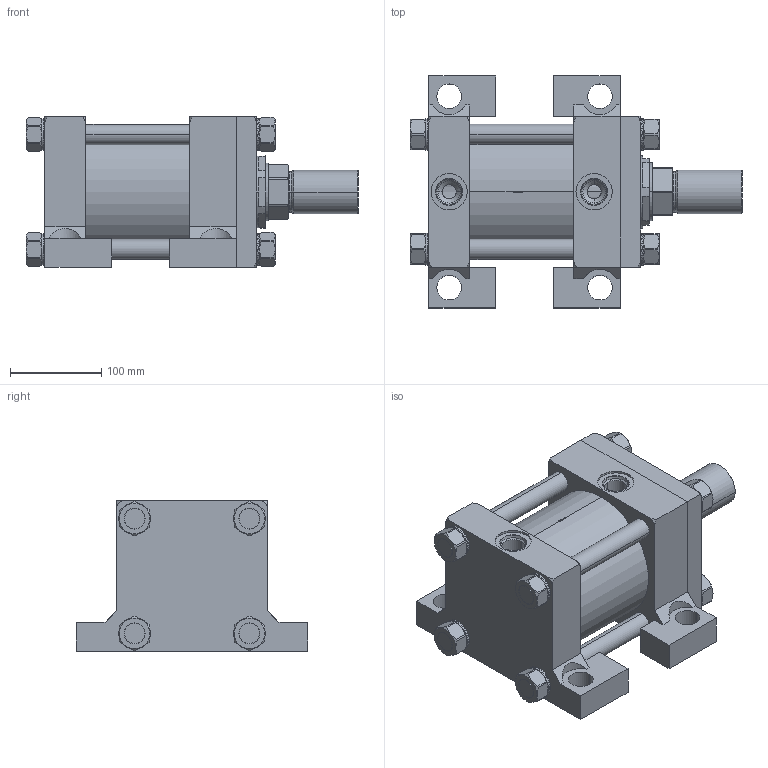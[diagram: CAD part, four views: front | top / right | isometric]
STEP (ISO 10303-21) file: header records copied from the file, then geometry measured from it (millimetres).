
FILE_DESCRIPTION (( 'STEP AP214' ), '1' );
FILE_NAME ('5.00C2HHNAT134A2.000.step', '2026-03-26T21:12:54', ( '' ), ( '' ), 'SwSTEP 2.0', 'SolidWorks 2023', '' );
FILE_SCHEMA (( 'AUTOMOTIVE_DESIGN' ));
Length unit declared in the file: inch
Products named in the file (1): 5.00C2HHNAT134A2.000
Bounding box: 363.54 x 254 x 165.1 mm (x, y, z)
Volume: 5367232.8 mm3; surface area: 717424.6 mm2
Topology: 44 solids, 44 shells, 1217 faces, 3139 edges, 2018 vertices
Faces by surface type: plane 795, cylinder 221, cone 163, bspline 30, torus 8
Entity records: 55242 total; most frequent: CARTESIAN_POINT 11059, ORIENTED_EDGE 6278, DIRECTION 5157, EDGE_CURVE 3139, VERTEX_POINT 2018, AXIS2_PLACEMENT_3D 1750, LINE 1657, VECTOR 1657
